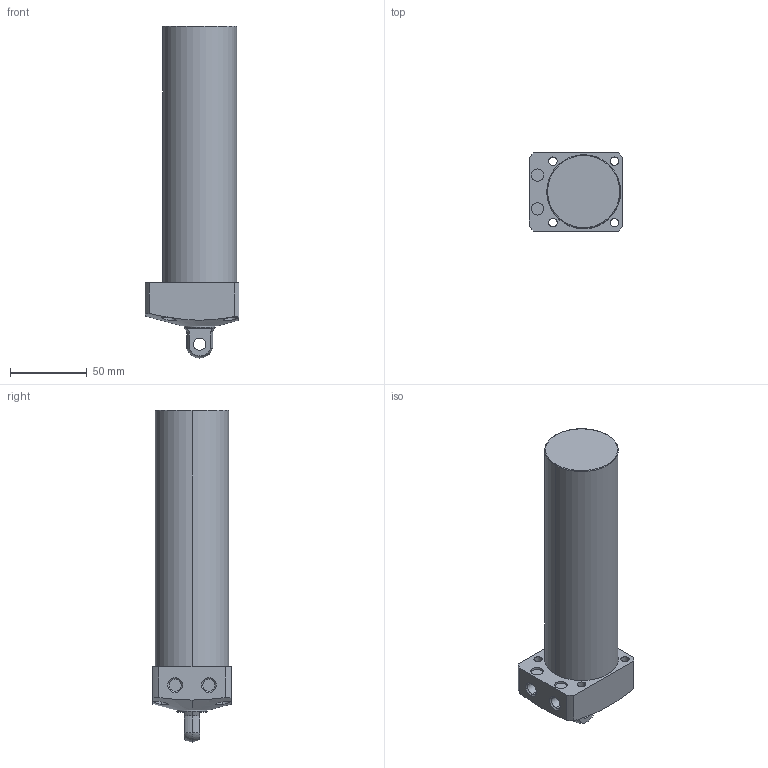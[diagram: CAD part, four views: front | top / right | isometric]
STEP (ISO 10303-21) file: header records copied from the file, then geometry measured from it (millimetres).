
FILE_DESCRIPTION (( 'STEP AP203' ), '1' );
FILE_NAME ('CLL-048CP-140.STEP', '2019-12-21T07:02:44', ( '' ), ( '' ), 'SwSTEP 2.0', 'SolidWorks 2015', '' );
FILE_SCHEMA (( 'CONFIG_CONTROL_DESIGN' ));
Length unit declared in the file: millimetre
Products named in the file (1): CLL-048CP-140
Bounding box: 61 x 51 x 216 mm (x, y, z)
Volume: 377534 mm3; surface area: 40002.4 mm2
Topology: 1 solids, 1 shells, 68 faces, 159 edges, 103 vertices
Faces by surface type: cylinder 35, plane 21, cone 8, sphere 2, torus 2
Entity records: 2390 total; most frequent: CARTESIAN_POINT 693, DIRECTION 357, ORIENTED_EDGE 318, EDGE_CURVE 159, AXIS2_PLACEMENT_3D 149, VERTEX_POINT 103, EDGE_LOOP 88, CIRCLE 80
